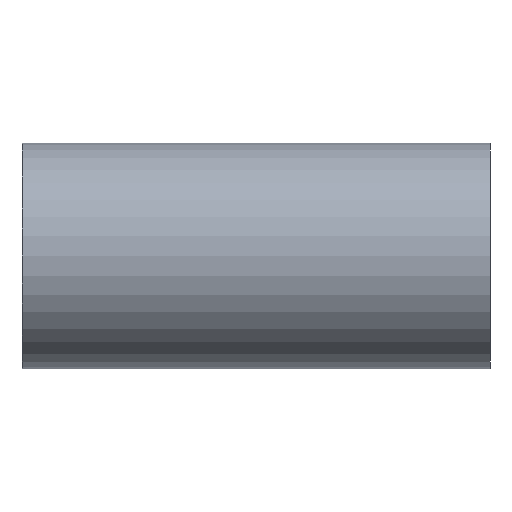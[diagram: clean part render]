
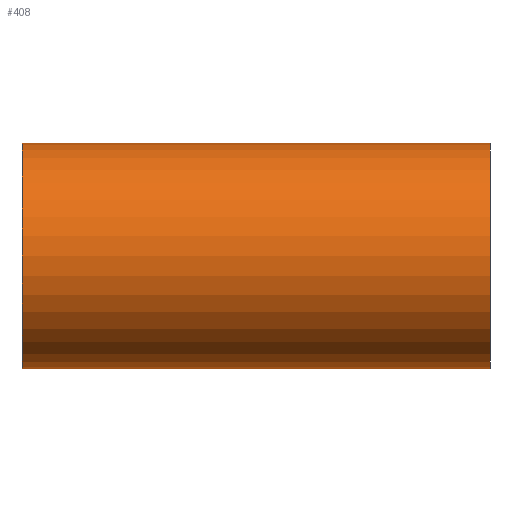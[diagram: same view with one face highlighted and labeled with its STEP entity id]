
A CAD part, front view. The second image highlights one B-rep face of the part: STEP entity #408.
In plain terms, the highlighted cylindrical face has radius 13.5 mm (diameter 27 mm), a full revolution.
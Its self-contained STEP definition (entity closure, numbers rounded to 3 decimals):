
#16=FACE_BOUND('',#102,.T.);
#17=FACE_BOUND('',#103,.T.);
#26=ELLIPSE('',#433,19.092,13.5);
#27=ELLIPSE('',#434,19.092,13.5);
#29=CYLINDRICAL_SURFACE('',#431,13.5);
#75=FACE_OUTER_BOUND('',#101,.T.);
#101=EDGE_LOOP('',(#343));
#102=EDGE_LOOP('',(#344,#345));
#103=EDGE_LOOP('',(#346));
#124=CIRCLE('',#432,13.5);
#125=CIRCLE('',#435,13.5);
#195=VERTEX_POINT('',#11984);
#196=VERTEX_POINT('',#11986);
#197=VERTEX_POINT('',#11987);
#198=VERTEX_POINT('',#11990);
#253=EDGE_CURVE('',#195,#195,#124,.T.);
#254=EDGE_CURVE('',#196,#197,#26,.T.);
#255=EDGE_CURVE('',#197,#196,#27,.T.);
#256=EDGE_CURVE('',#198,#198,#125,.T.);
#343=ORIENTED_EDGE('',*,*,#253,.F.);
#344=ORIENTED_EDGE('',*,*,#254,.T.);
#345=ORIENTED_EDGE('',*,*,#255,.T.);
#346=ORIENTED_EDGE('',*,*,#256,.F.);
#408=ADVANCED_FACE('',(#75,#16,#17),#29,.T.);
#431=AXIS2_PLACEMENT_3D('',#11983,#483,#484);
#432=AXIS2_PLACEMENT_3D('',#11985,#485,#486);
#433=AXIS2_PLACEMENT_3D('',#11988,#487,#488);
#434=AXIS2_PLACEMENT_3D('',#11989,#489,#490);
#435=AXIS2_PLACEMENT_3D('',#11991,#491,#492);
#483=DIRECTION('center_axis',(1.,0.,0.));
#484=DIRECTION('ref_axis',(0.,-1.,0.));
#485=DIRECTION('center_axis',(-1.,0.,0.));
#486=DIRECTION('ref_axis',(0.,-1.,0.));
#487=DIRECTION('center_axis',(-0.707,-0.707,0.));
#488=DIRECTION('ref_axis',(0.707,-0.707,0.));
#489=DIRECTION('center_axis',(0.707,-0.707,0.));
#490=DIRECTION('ref_axis',(0.707,0.707,0.));
#491=DIRECTION('center_axis',(1.,0.,0.));
#492=DIRECTION('ref_axis',(0.,-1.,0.));
#11983=CARTESIAN_POINT('Origin',(0.,0.,0.));
#11984=CARTESIAN_POINT('',(-28.,13.5,0.));
#11985=CARTESIAN_POINT('Origin',(-28.,0.,0.));
#11986=CARTESIAN_POINT('',(0.,0.,13.5));
#11987=CARTESIAN_POINT('',(0.,0.,-13.5));
#11988=CARTESIAN_POINT('Origin',(0.,0.,0.));
#11989=CARTESIAN_POINT('Origin',(0.,0.,0.));
#11990=CARTESIAN_POINT('',(28.,13.5,0.));
#11991=CARTESIAN_POINT('Origin',(28.,0.,0.));
